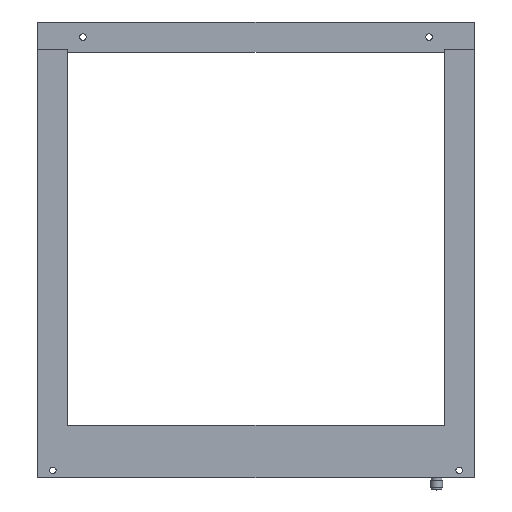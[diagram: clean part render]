
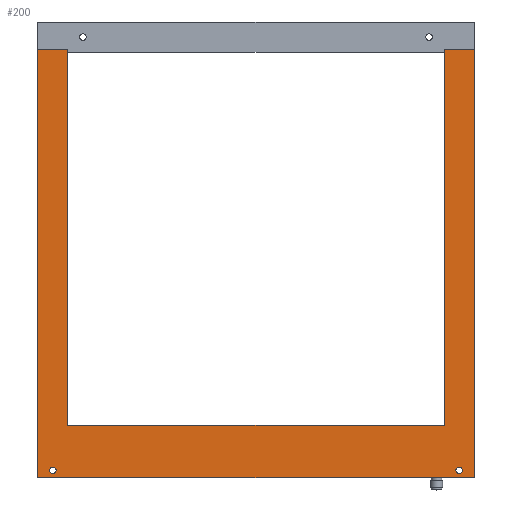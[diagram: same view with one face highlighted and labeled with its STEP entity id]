
A CAD part, top view. The second image highlights one B-rep face of the part: STEP entity #200.
In plain terms, the highlighted planar face has unit normal (0, 0, 1).
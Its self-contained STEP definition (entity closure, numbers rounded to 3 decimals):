
#200=ADVANCED_FACE('',(#449,#450,#451),#452,.T.);
#449=FACE_OUTER_BOUND('',#756,.T.);
#450=FACE_BOUND('',#757,.T.);
#451=FACE_BOUND('',#758,.T.);
#452=PLANE('',#759);
#756=EDGE_LOOP('',(#1265,#1266,#1267,#1268,#1269,#1270,#1271,#1272));
#757=EDGE_LOOP('',(#1273,#1274));
#758=EDGE_LOOP('',(#1275,#1276));
#759=AXIS2_PLACEMENT_3D('',#1277,#1278,#1279);
#1265=ORIENTED_EDGE('',*,*,#1924,.F.);
#1266=ORIENTED_EDGE('',*,*,#1925,.F.);
#1267=ORIENTED_EDGE('',*,*,#1926,.F.);
#1268=ORIENTED_EDGE('',*,*,#1785,.F.);
#1269=ORIENTED_EDGE('',*,*,#1927,.F.);
#1270=ORIENTED_EDGE('',*,*,#1847,.F.);
#1271=ORIENTED_EDGE('',*,*,#1928,.F.);
#1272=ORIENTED_EDGE('',*,*,#1893,.F.);
#1273=ORIENTED_EDGE('',*,*,#1921,.T.);
#1274=ORIENTED_EDGE('',*,*,#1929,.T.);
#1275=ORIENTED_EDGE('',*,*,#1803,.T.);
#1276=ORIENTED_EDGE('',*,*,#1837,.T.);
#1277=CARTESIAN_POINT('',(0.,-32.576,10.0));
#1278=DIRECTION('',(0.0,0.0,1.0));
#1279=DIRECTION('',(1.0,0.0,0.0));
#1785=EDGE_CURVE('',#2137,#2139,#2140,.T.);
#1803=EDGE_CURVE('',#2169,#2167,#2170,.T.);
#1837=EDGE_CURVE('',#2167,#2169,#2222,.T.);
#1847=EDGE_CURVE('',#2237,#2239,#2240,.T.);
#1893=EDGE_CURVE('',#2308,#2309,#2310,.T.);
#1921=EDGE_CURVE('',#2347,#2345,#2348,.T.);
#1924=EDGE_CURVE('',#2351,#2308,#2352,.T.);
#1925=EDGE_CURVE('',#2353,#2351,#2354,.T.);
#1926=EDGE_CURVE('',#2139,#2353,#2355,.T.);
#1927=EDGE_CURVE('',#2239,#2137,#2356,.T.);
#1928=EDGE_CURVE('',#2309,#2237,#2357,.T.);
#1929=EDGE_CURVE('',#2345,#2347,#2358,.T.);
#2137=VERTEX_POINT('',#2611);
#2139=VERTEX_POINT('',#2614);
#2140=LINE('',#2615,#2616);
#2167=VERTEX_POINT('',#2653);
#2169=VERTEX_POINT('',#2656);
#2170=CIRCLE('',#2657,2.15);
#2222=CIRCLE('',#2723,2.15);
#2237=VERTEX_POINT('',#2741);
#2239=VERTEX_POINT('',#2744);
#2240=LINE('',#2745,#2746);
#2308=VERTEX_POINT('',#2837);
#2309=VERTEX_POINT('',#2838);
#2310=LINE('',#2839,#2840);
#2345=VERTEX_POINT('',#2885);
#2347=VERTEX_POINT('',#2888);
#2348=CIRCLE('',#2889,2.15);
#2351=VERTEX_POINT('',#2893);
#2352=LINE('',#2894,#2895);
#2353=VERTEX_POINT('',#2896);
#2354=LINE('',#2897,#2898);
#2355=LINE('',#2899,#2900);
#2356=LINE('',#2901,#2902);
#2357=LINE('',#2903,#2904);
#2358=CIRCLE('',#2905,2.15);
#2611=CARTESIAN_POINT('',(125.0,-107.5,10.0));
#2614=CARTESIAN_POINT('',(125.0,142.5,10.0));
#2615=CARTESIAN_POINT('',(125.0,-107.5,10.0));
#2616=VECTOR('',#3153,1.0);
#2653=CARTESIAN_POINT('',(-132.85,-137.5,10.0));
#2656=CARTESIAN_POINT('',(-137.15,-137.5,10.0));
#2657=AXIS2_PLACEMENT_3D('',#3171,#3172,#3173);
#2723=AXIS2_PLACEMENT_3D('',#3221,#3222,#3223);
#2741=CARTESIAN_POINT('',(-125.0,142.5,10.0));
#2744=CARTESIAN_POINT('',(-125.0,-107.5,10.0));
#2745=CARTESIAN_POINT('',(-125.0,142.5,10.0));
#2746=VECTOR('',#3240,1.0);
#2837=CARTESIAN_POINT('',(-145.0,-142.5,10.0));
#2838=CARTESIAN_POINT('',(-145.0,142.5,10.0));
#2839=CARTESIAN_POINT('',(-145.0,-142.5,10.0));
#2840=VECTOR('',#3300,1.0);
#2885=CARTESIAN_POINT('',(137.15,-137.5,10.0));
#2888=CARTESIAN_POINT('',(132.85,-137.5,10.0));
#2889=AXIS2_PLACEMENT_3D('',#3339,#3340,#3341);
#2893=CARTESIAN_POINT('',(145.0,-142.5,10.0));
#2894=CARTESIAN_POINT('',(145.0,-142.5,10.0));
#2895=VECTOR('',#3343,1.0);
#2896=CARTESIAN_POINT('',(145.0,142.5,10.0));
#2897=CARTESIAN_POINT('',(145.0,142.5,10.0));
#2898=VECTOR('',#3344,1.0);
#2899=CARTESIAN_POINT('',(125.0,142.5,10.0));
#2900=VECTOR('',#3345,1.0);
#2901=CARTESIAN_POINT('',(-125.0,-107.5,10.0));
#2902=VECTOR('',#3346,1.0);
#2903=CARTESIAN_POINT('',(-145.0,142.5,10.0));
#2904=VECTOR('',#3347,1.0);
#2905=AXIS2_PLACEMENT_3D('',#3348,#3349,#3350);
#3153=DIRECTION('',(0.,1.0,0.0));
#3171=CARTESIAN_POINT('',(-135.0,-137.5,10.0));
#3172=DIRECTION('',(0.0,0.0,-1.0));
#3173=DIRECTION('',(1.0,0.0,0.0));
#3221=CARTESIAN_POINT('',(-135.0,-137.5,10.0));
#3222=DIRECTION('',(0.0,0.0,-1.0));
#3223=DIRECTION('',(1.0,0.0,0.0));
#3240=DIRECTION('',(0.,-1.0,0.0));
#3300=DIRECTION('',(0.0,1.0,0.0));
#3339=CARTESIAN_POINT('',(135.0,-137.5,10.0));
#3340=DIRECTION('',(0.0,0.0,-1.0));
#3341=DIRECTION('',(1.0,0.0,0.0));
#3343=DIRECTION('',(-1.0,0.0,0.0));
#3344=DIRECTION('',(0.,-1.0,0.0));
#3345=DIRECTION('',(1.0,0.0,0.0));
#3346=DIRECTION('',(1.0,0.0,0.0));
#3347=DIRECTION('',(1.0,0.0,0.0));
#3348=CARTESIAN_POINT('',(135.0,-137.5,10.0));
#3349=DIRECTION('',(0.0,0.0,-1.0));
#3350=DIRECTION('',(1.0,0.0,0.0));
